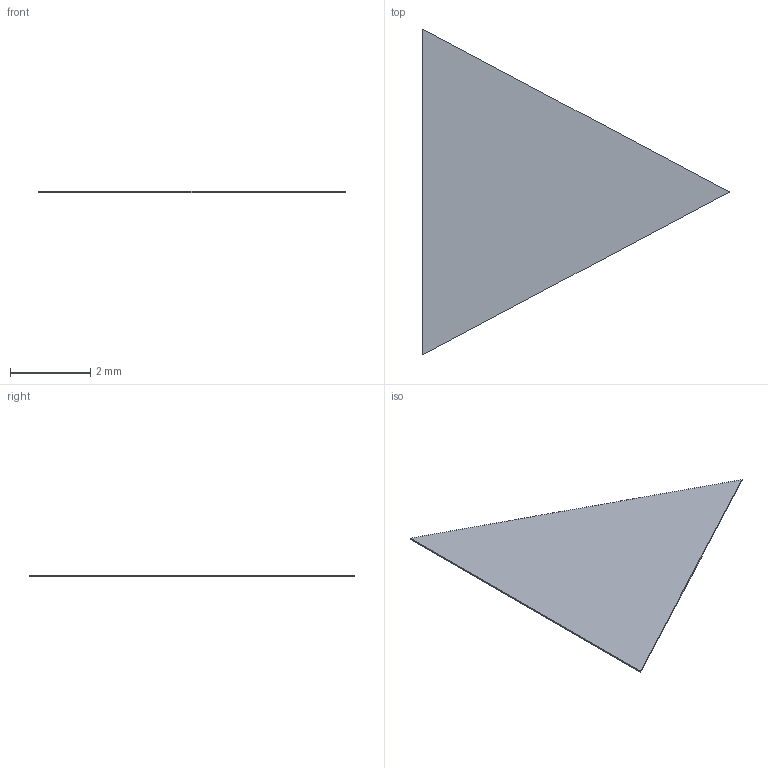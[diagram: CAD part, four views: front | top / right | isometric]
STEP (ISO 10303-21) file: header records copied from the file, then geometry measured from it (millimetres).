
FILE_DESCRIPTION(('Open CASCADE Model'),'2;1');
FILE_NAME('Open CASCADE Shape Model','2026-09-08T13:27:14',('Author'),( 'Open CASCADE'),'Open CASCADE STEP processor 7.7','Open CASCADE 7.7' ,'Unknown');
FILE_SCHEMA(('AUTOMOTIVE_DESIGN { 1 0 10303 214 1 1 1 1 }'));
Length unit declared in the file: millimetre
Products named in the file (1): Open CASCADE STEP translator 7.7 10
Bounding box: 7.64 x 8.12 x 0.04 mm (x, y, z)
Volume: 1.1 mm3; surface area: 62.9 mm2
Topology: 1 solids, 1 shells, 5 faces, 9 edges, 6 vertices
Faces by surface type: plane 5
Entity records: 250 total; most frequent: CARTESIAN_POINT 39, DIRECTION 39, LINE 27, VECTOR 27, ORIENTED_EDGE 18, PCURVE 18, DEFINITIONAL_REPRESENTATION 18, EDGE_CURVE 9
